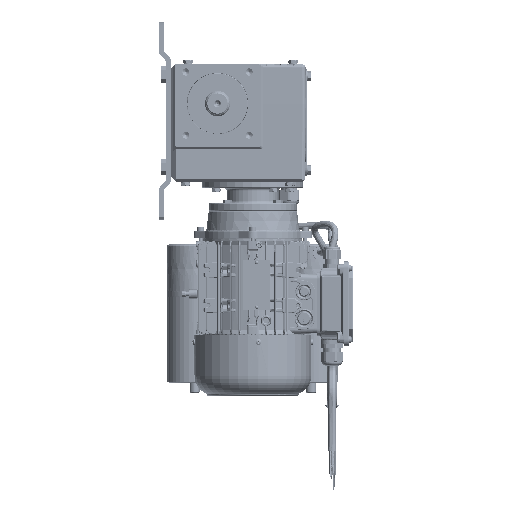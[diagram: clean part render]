
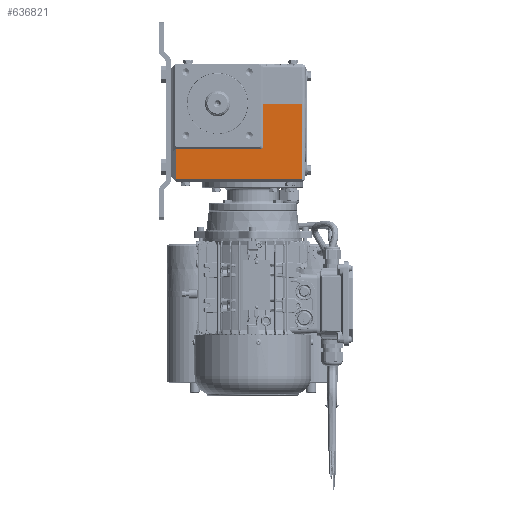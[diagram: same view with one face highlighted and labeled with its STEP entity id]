
A CAD part, left-side view. The second image highlights one B-rep face of the part: STEP entity #636821.
In plain terms, the highlighted planar face has unit normal (-1, 0, -0.009).
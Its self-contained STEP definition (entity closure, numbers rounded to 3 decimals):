
#11697 = CARTESIAN_POINT ( 'NONE',  ( -93., 53., 0. ) ) ;
#35628 = VERTEX_POINT ( 'NONE', #513163 ) ;
#39978 = CARTESIAN_POINT ( 'NONE',  ( -92.529, -51.85, -53.971 ) ) ;
#65182 = EDGE_CURVE ( 'NONE', #579721, #528578, #103239, .T. ) ;
#66887 = ORIENTED_EDGE ( 'NONE', *, *, #770540, .F. ) ;
#84412 = ORIENTED_EDGE ( 'NONE', *, *, #125269, .F. ) ;
#92965 = ORIENTED_EDGE ( 'NONE', *, *, #264653, .T. ) ;
#103239 = LINE ( 'NONE', #356916, #461086 ) ;
#106957 = DIRECTION ( 'NONE',  ( -0.009, 0., 1. ) ) ;
#108479 = VERTEX_POINT ( 'NONE', #218898 ) ;
#125269 = EDGE_CURVE ( 'NONE', #108479, #35628, #461522, .T. ) ;
#152215 = CARTESIAN_POINT ( 'NONE',  ( -92.215, 49.215, -90. ) ) ;
#168514 = DIRECTION ( 'NONE',  ( -1., 0., -0.009 ) ) ;
#218898 = CARTESIAN_POINT ( 'NONE',  ( -93., -53.5, 0. ) ) ;
#223231 = CARTESIAN_POINT ( 'NONE',  ( -93., -100.757, 0.011 ) ) ;
#230520 = CARTESIAN_POINT ( 'NONE',  ( -93., -100.757, 0. ) ) ;
#245466 = CARTESIAN_POINT ( 'NONE',  ( -92.529, 53., -53.971 ) ) ;
#255434 = CARTESIAN_POINT ( 'NONE',  ( -92.536, -53.964, -53.188 ) ) ;
#261414 = DIRECTION ( 'NONE',  ( 0., -1., 0. ) ) ;
#264653 = EDGE_CURVE ( 'NONE', #586267, #451604, #625892, .T. ) ;
#284696 = VECTOR ( 'NONE', #261414, 1000. ) ;
#292635 = LINE ( 'NONE', #223231, #449296 ) ;
#297784 = VECTOR ( 'NONE', #722517, 1000. ) ;
#298832 = ORIENTED_EDGE ( 'NONE', *, *, #565853, .T. ) ;
#313247 = VERTEX_POINT ( 'NONE', #230520 ) ;
#328076 = EDGE_CURVE ( 'NONE', #35628, #313247, #478178, .T. ) ;
#344764 = ORIENTED_EDGE ( 'NONE', *, *, #661603, .T. ) ;
#355105 = VECTOR ( 'NONE', #737943, 1000. ) ;
#356916 = CARTESIAN_POINT ( 'NONE',  ( -92.215, 53., -90. ) ) ;
#358476 = LINE ( 'NONE', #538440, #297784 ) ;
#364047 = ORIENTED_EDGE ( 'NONE', *, *, #328076, .F. ) ;
#381141 = VECTOR ( 'NONE', #625559, 1000. ) ;
#386207 = CARTESIAN_POINT ( 'NONE',  ( -92.548, -53.952, -51.831 ) ) ;
#424016 = VECTOR ( 'NONE', #658192, 1000. ) ;
#429536 = CARTESIAN_POINT ( 'NONE',  ( -92.529, 49.529, -53.971 ) ) ;
#443936 = ORIENTED_EDGE ( 'NONE', *, *, #596465, .F. ) ;
#447420 = CARTESIAN_POINT ( 'NONE',  ( -92.529, -51.85, -53.971 ) ) ;
#449296 = VECTOR ( 'NONE', #660623, 1000. ) ;
#451604 = VERTEX_POINT ( 'NONE', #39978 ) ;
#461086 = VECTOR ( 'NONE', #606217, 1000. ) ;
#461522 = LINE ( 'NONE', #11697, #284696 ) ;
#478178 = LINE ( 'NONE', #654196, #424016 ) ;
#479238 = PLANE ( 'NONE',  #706312 ) ;
#498169 = ORIENTED_EDGE ( 'NONE', *, *, #65182, .T. ) ;
#513163 = CARTESIAN_POINT ( 'NONE',  ( -93., -100.756, 0. ) ) ;
#528578 = VERTEX_POINT ( 'NONE', #780870 ) ;
#532608 = FACE_OUTER_BOUND ( 'NONE', #534914, .T. ) ;
#534914 = EDGE_LOOP ( 'NONE', ( #344764, #498169, #298832, #364047, #84412, #66887, #92965, #443936 ) ) ;
#538440 = CARTESIAN_POINT ( 'NONE',  ( -93.008, -53.492, 0.929 ) ) ;
#545893 = CARTESIAN_POINT ( 'NONE',  ( -92.585, 49.585, -47.5 ) ) ;
#552200 = LINE ( 'NONE', #245466, #381141 ) ;
#559264 = CARTESIAN_POINT ( 'NONE',  ( -92.548, -53.952, -51.831 ) ) ;
#565853 = EDGE_CURVE ( 'NONE', #528578, #313247, #292635, .T. ) ;
#570222 = CARTESIAN_POINT ( 'NONE',  ( -92.529, -53.195, -53.971 ) ) ;
#579721 = VERTEX_POINT ( 'NONE', #152215 ) ;
#586267 = VERTEX_POINT ( 'NONE', #559264 ) ;
#596465 = EDGE_CURVE ( 'NONE', #751544, #451604, #552200, .T. ) ;
#606217 = DIRECTION ( 'NONE',  ( 0., -1., 0. ) ) ;
#607207 = LINE ( 'NONE', #545893, #355105 ) ;
#625559 = DIRECTION ( 'NONE',  ( 0., -1., 0. ) ) ;
#625892 =( BOUNDED_CURVE ( )  B_SPLINE_CURVE ( 3, ( #386207, #255434, #570222, #447420 ),
 .UNSPECIFIED., .F., .F. ) 
 B_SPLINE_CURVE_WITH_KNOTS ( ( 4, 4 ),
 ( 2.61, 3.658 ),
 .UNSPECIFIED. ) 
 CURVE ( )  GEOMETRIC_REPRESENTATION_ITEM ( )  RATIONAL_B_SPLINE_CURVE ( ( 1., 0.911, 0.911, 1. ) ) 
 REPRESENTATION_ITEM ( '' )  );
#636821 = ADVANCED_FACE ( 'NONE', ( #532608 ), #479238, .T. ) ;
#654196 = CARTESIAN_POINT ( 'NONE',  ( -93., 53., 0. ) ) ;
#658192 = DIRECTION ( 'NONE',  ( 0., -1., 0. ) ) ;
#660623 = DIRECTION ( 'NONE',  ( -0.009, -0.009, 1. ) ) ;
#661603 = EDGE_CURVE ( 'NONE', #751544, #579721, #607207, .T. ) ;
#706312 = AXIS2_PLACEMENT_3D ( 'NONE', #728687, #168514, #106957 ) ;
#722517 = DIRECTION ( 'NONE',  ( -0.009, 0.009, 1. ) ) ;
#728687 = CARTESIAN_POINT ( 'NONE',  ( -93., 53., 0. ) ) ;
#737943 = DIRECTION ( 'NONE',  ( 0.009, -0.009, -1. ) ) ;
#751544 = VERTEX_POINT ( 'NONE', #429536 ) ;
#770540 = EDGE_CURVE ( 'NONE', #586267, #108479, #358476, .T. ) ;
#780870 = CARTESIAN_POINT ( 'NONE',  ( -92.215, -99.972, -90. ) ) ;
